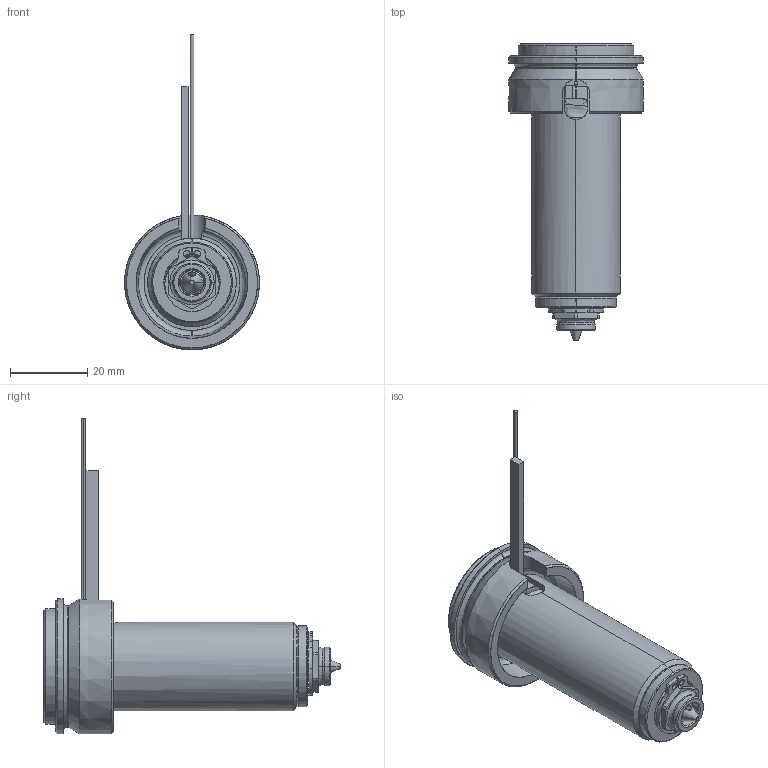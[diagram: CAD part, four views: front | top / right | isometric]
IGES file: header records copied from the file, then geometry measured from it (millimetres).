
Start section: SolidWorks IGES file using analytic representation for surfaces
Global section: file name: C:\Documents and Settings\ws-20\Desktop\TEM\UGEP3051-M-A-0 [Øf-1.10 ØC-6.0].IGS; native system: SolidWorks 2012; preprocessor: SolidWorks 2012; author: ws-20; date: 120402.112226; units: millimetre
Bounding box: 35 x 76.8 x 81.9 mm (x, y, z)
Surface area: 17332.4 mm2 (no closed solid volume)
Topology: 0 solids, 0 shells, 131 faces, 1928 edges, 1928 vertices
Faces by surface type: revolution 79, bspline 52
